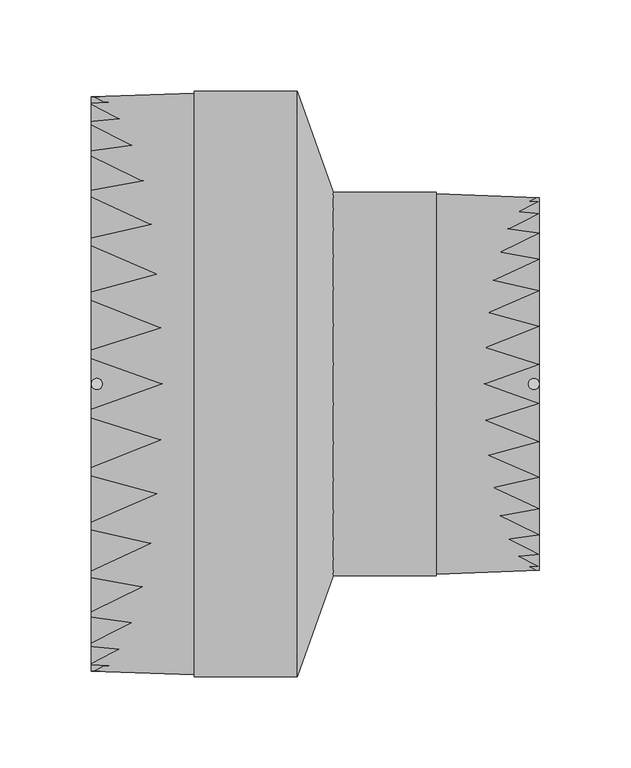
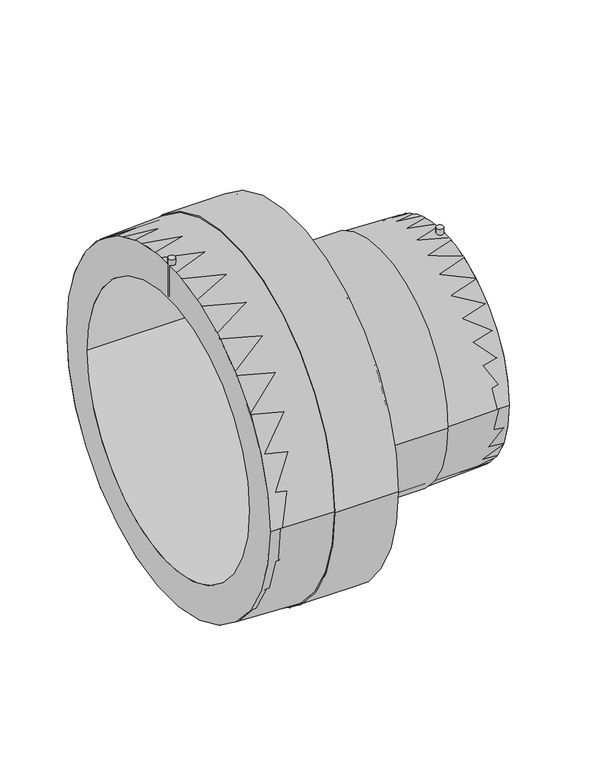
"""IFC4 building model written with IfcOpenShell, lengths in millimetres: pipe fitting geometry, EGB_VASEN_ PPR_Manguito reductor electrosoldable WXRD110 : Manguito reductor electrosoldable WXRD110."""

from ifc_helpers import new_model, si_unit, point, frame, frame_2d, origin, origin_2d, place, context, project, spatial, polyline, circle_curve, trimmed, segment, composite_curve, outline, extrude, source, transform, mapped, element, save
from ifc_brep_helpers import plane_surface, cylinder_surface, revolved_surface, advanced_brep


def pipe_fitting_a3f0e0b7(model_context):
    return source(origin(), model_context, "Body", "SolidModel", [
        extrude(outline(composite_curve([segment(trimmed(circle_curve(frame_2d((119.5, 0.0)), 3.0), [point((116.5, 0.0))], [point((122.5, 0.0))], False, "CARTESIAN"), True, "CONTINUOUS"), segment(trimmed(circle_curve(frame_2d((119.5, 0.0)), 3.0), [point((122.5, 0.0))], [point((116.5, 0.0))], False, "CARTESIAN"), True, "CONTINUOUS")], self_intersect=False)), frame((0.0, 0.0, 82.0), z_axis=(0.0, 0.0, 1.0), x_axis=(1.0, 0.0, 0.0)), (0.0, 0.0, 1.0), 25.0),
        extrude(outline(composite_curve([segment(trimmed(circle_curve(frame_2d((-119.5, 0.0)), 3.0), [point((-122.5, 0.0))], [point((-116.5, 0.0))], False, "CARTESIAN"), True, "CONTINUOUS"), segment(trimmed(circle_curve(frame_2d((-119.5, 0.0)), 3.0), [point((-116.5, 0.0))], [point((-122.5, 0.0))], False, "CARTESIAN"), True, "CONTINUOUS")], self_intersect=False)), frame((0.0, 0.0, 127.0), z_axis=(0.0, 0.0, 1.0), x_axis=(1.0, 0.0, 0.0)), (0.0, 0.0, 1.0), 35.0),
        extrude(outline(composite_curve([segment(trimmed(circle_curve(origin_2d(), 102.0), [point((-102.0, 0.0))], [point((102.0, 0.0))], False, "CARTESIAN"), True, "CONTINUOUS"), segment(trimmed(circle_curve(origin_2d(), 102.0), [point((102.0, 0.0))], [point((-102.0, 0.0))], False, "CARTESIAN"), True, "CONTINUOUS")], self_intersect=False), holes=[composite_curve([segment(trimmed(circle_curve(origin_2d(), 80.0), [point((-80.0, 0.0))], [point((80.0, 0.0))], True, "CARTESIAN"), True, "CONTINUOUS"), segment(trimmed(circle_curve(origin_2d(), 80.0), [point((80.0, 0.0))], [point((-80.0, 0.0))], True, "CARTESIAN"), True, "CONTINUOUS")], self_intersect=False)]), frame((9.8, 0.0, 0.0), z_axis=(1.0, 0.0, 0.0), x_axis=(0.0, 1.0, 0.0)), (0.0, 0.0, 1.0), 112.7),
        extrude(outline(composite_curve([segment(trimmed(circle_curve(origin_2d(), 157.0), [point((-157.0, 0.0))], [point((157.0, 0.0))], False, "CARTESIAN"), True, "CONTINUOUS"), segment(trimmed(circle_curve(origin_2d(), 157.0), [point((157.0, 0.0))], [point((-157.0, 0.0))], False, "CARTESIAN"), True, "CONTINUOUS")], self_intersect=False), holes=[composite_curve([segment(trimmed(circle_curve(origin_2d(), 125.0), [point((-125.0, 0.0))], [point((125.0, 0.0))], True, "CARTESIAN"), True, "CONTINUOUS"), segment(trimmed(circle_curve(origin_2d(), 125.0), [point((125.0, 0.0))], [point((-125.0, 0.0))], True, "CARTESIAN"), True, "CONTINUOUS")], self_intersect=False)]), frame((-122.5, 0.0, 0.0), z_axis=(1.0, 0.0, 0.0), x_axis=(0.0, 1.0, 0.0)), (0.0, 0.0, 1.0), 112.7),
        advanced_brep(
        [(9.8, -102.0, 0.0), (9.8, 102.0, 0.0), (-9.8, -157.0, 0.0), (-9.8, 157.0, 0.0)],
        [
            (0, 1, circle_curve(frame((9.8, 0.0, 0.0), z_axis=(1.0, 0.0, 0.0), x_axis=(0.0, -1.0, 0.0)), 102.0)),
            (1, 0, circle_curve(frame((9.8, 0.0, 0.0), z_axis=(1.0, 0.0, 0.0), x_axis=(0.0, 1.0, 0.0)), 102.0)),
            (2, 3, circle_curve(frame((-9.8, 0.0, 0.0), z_axis=(-1.0, 0.0, 0.0), x_axis=(0.0, 1.0, 0.0)), 157.0)),
            (3, 2, circle_curve(frame((-9.8, 0.0, 0.0), z_axis=(-1.0, 0.0, 0.0), x_axis=(0.0, -1.0, 0.0)), 157.0)),
            (3, 1),
            (0, 2),
        ],
        [
            plane_surface(frame((9.8, 0.0, 0.0), z_axis=(1.0, 0.0, 0.0), x_axis=(0.0, 0.0, -1.0))),
            plane_surface(frame((-9.8, 0.0, 0.0), z_axis=(-1.0, 0.0, 0.0), x_axis=(0.0, 0.0, -1.0))),
            revolved_surface(polyline([(9.800000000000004, -101.99999999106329, 0.0), (-9.800000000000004, -157.0, 0.0)]), (46.1490909, 0.0, 0.0), (-1.0, 0.0, 0.0)),
            revolved_surface(polyline([(9.800000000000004, 101.99999999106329, 0.0), (-9.800000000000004, 157.0, 0.0)]), (46.1490909, 0.0, 0.0), (-1.0, 0.0, 0.0)),
        ],
        [
            (0, [[1, 2]]),
            (1, [[3, 4]]),
            (2, [[-4, 5, -1, 6]]),
            (3, [[-3, -6, -2, -5]]),
        ],
    ),
        advanced_brep(
        [(9.8, -102.0, 0.0), (9.8, 102.0, 0.0), (-9.8, 157.0, 0.0), (-9.8, -157.0, 0.0), (122.5, -102.0, 0.0), (122.5, 102.0, 0.0), (66.15, -104.0, 0.0), (66.15, 104.0, 0.0), (66.15, -105.0, 0.0), (66.15, 105.0, 0.0), (9.8, -105.0, 0.0), (9.8, 105.0, 0.0), (-9.8, -160.0, 0.0), (-9.8, 160.0, 0.0), (-66.15, -160.0, 0.0), (-66.15, 160.0, 0.0), (-66.15, -159.0, 0.0), (-66.15, 159.0, 0.0), (-122.5, -157.0, 0.0), (-122.5, 157.0, 0.0)],
        [
            (0, 1, circle_curve(frame((9.8, 0.0, 0.0), z_axis=(1.0, 0.0, 0.0), x_axis=(0.0, 1.0, 0.0)), 102.0)),
            (1, 2),
            (2, 3, circle_curve(frame((-9.8, 0.0, 0.0), z_axis=(-1.0, 0.0, 0.0), x_axis=(0.0, 1.0, 0.0)), 157.0)),
            (3, 0),
            (1, 0, circle_curve(frame((9.8, 0.0, 0.0), z_axis=(1.0, 0.0, 0.0), x_axis=(0.0, 1.0, 0.0)), 102.0)),
            (3, 2, circle_curve(frame((-9.8, 0.0, 0.0), z_axis=(-1.0, 0.0, 0.0), x_axis=(0.0, 1.0, 0.0)), 157.0)),
            (4, 5, circle_curve(frame((122.5, 0.0, 0.0), z_axis=(1.0, 0.0, 0.0), x_axis=(0.0, 1.0, 0.0)), 102.0)),
            (5, 1),
            (0, 4),
            (5, 4, circle_curve(frame((122.5, 0.0, 0.0), z_axis=(1.0, 0.0, 0.0), x_axis=(0.0, 1.0, 0.0)), 102.0)),
            (6, 7, circle_curve(frame((66.15, 0.0, 0.0), z_axis=(1.0, 0.0, 0.0), x_axis=(0.0, 1.0, 0.0)), 104.0)),
            (7, 5),
            (4, 6),
            (7, 6, circle_curve(frame((66.15, 0.0, 0.0), z_axis=(1.0, 0.0, 0.0), x_axis=(0.0, 1.0, 0.0)), 104.0)),
            (8, 9, circle_curve(frame((66.15, 0.0, 0.0), z_axis=(1.0, 0.0, 0.0), x_axis=(0.0, 1.0, 0.0)), 105.0)),
            (9, 7),
            (6, 8),
            (9, 8, circle_curve(frame((66.15, 0.0, 0.0), z_axis=(1.0, 0.0, 0.0), x_axis=(0.0, 1.0, 0.0)), 105.0)),
            (10, 11, circle_curve(frame((9.8, 0.0, 0.0), z_axis=(1.0, 0.0, 0.0), x_axis=(0.0, 1.0, 0.0)), 105.0)),
            (11, 9),
            (8, 10),
            (11, 10, circle_curve(frame((9.8, 0.0, 0.0), z_axis=(1.0, 0.0, 0.0), x_axis=(0.0, 1.0, 0.0)), 105.0)),
            (12, 13, circle_curve(frame((-9.8, 0.0, 0.0), z_axis=(1.0, 0.0, 0.0), x_axis=(0.0, 1.0, 0.0)), 160.0)),
            (13, 11),
            (10, 12),
            (13, 12, circle_curve(frame((-9.8, 0.0, 0.0), z_axis=(1.0, 0.0, 0.0), x_axis=(0.0, 1.0, 0.0)), 160.0)),
            (14, 15, circle_curve(frame((-66.15, 0.0, 0.0), z_axis=(1.0, 0.0, 0.0), x_axis=(0.0, 1.0, 0.0)), 160.0)),
            (15, 13),
            (12, 14),
            (15, 14, circle_curve(frame((-66.15, 0.0, 0.0), z_axis=(1.0, 0.0, 0.0), x_axis=(0.0, 1.0, 0.0)), 160.0)),
            (16, 17, circle_curve(frame((-66.15, 0.0, 0.0), z_axis=(1.0, 0.0, 0.0), x_axis=(0.0, 1.0, 0.0)), 159.0)),
            (17, 15),
            (14, 16),
            (17, 16, circle_curve(frame((-66.15, 0.0, 0.0), z_axis=(1.0, 0.0, 0.0), x_axis=(0.0, 1.0, 0.0)), 159.0)),
            (18, 19, circle_curve(frame((-122.5, 0.0, 0.0), z_axis=(1.0, 0.0, 0.0), x_axis=(0.0, 1.0, 0.0)), 157.0)),
            (19, 17),
            (16, 18),
            (19, 18, circle_curve(frame((-122.5, 0.0, 0.0), z_axis=(1.0, 0.0, 0.0), x_axis=(0.0, 1.0, 0.0)), 157.0)),
            (2, 19),
            (18, 3),
        ],
        [
            revolved_surface(polyline([(-9.8, 157.0, 0.0), (9.8, 102.0, 0.0)]), (-157.5, 0.0, 0.0), (-1.0, 0.0, 0.0)),
            revolved_surface(polyline([(9.800000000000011, 102.0, 0.0), (122.5, 102.0, 0.0)]), (-157.5, 0.0, 0.0), (-1.0, 0.0, 0.0)),
            revolved_surface(polyline([(122.5, 102.0, 0.0), (66.15, 104.0, 0.0)]), (-157.5, 0.0, 0.0), (-1.0, 0.0, 0.0)),
            plane_surface(frame((66.15, 0.0, 0.0), z_axis=(1.0, 0.0, 0.0), x_axis=(0.0, 1.0, 0.0))),
            cylinder_surface(frame((-157.5, 0.0, 0.0), z_axis=(-1.0, 0.0, 0.0), x_axis=(0.0, 1.0, 0.0)), 105.0),
            revolved_surface(polyline([(9.8, 105.0, 0.0), (-9.8, 160.0, 0.0)]), (-157.5, 0.0, 0.0), (-1.0, 0.0, 0.0)),
            cylinder_surface(frame((-157.5, 0.0, 0.0), z_axis=(-1.0, 0.0, 0.0), x_axis=(0.0, 1.0, 0.0)), 160.0),
            plane_surface(frame((-66.15, 0.0, 0.0), z_axis=(-1.0, 0.0, 0.0), x_axis=(0.0, 1.0, 0.0))),
            revolved_surface(polyline([(-66.15, 159.0, 0.0), (-122.5, 157.0, 0.0)]), (-157.5, 0.0, 0.0), (-1.0, 0.0, 0.0)),
            revolved_surface(polyline([(-122.5, 157.0, 0.0), (-9.800000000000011, 157.0, 0.0)]), (-157.5, 0.0, 0.0), (-1.0, 0.0, 0.0)),
        ],
        [
            (0, [[1, 2, 3, 4]]),
            (0, [[5, -4, 6, -2]]),
            (1, [[7, 8, -1, 9]]),
            (1, [[10, -9, -5, -8]]),
            (2, [[11, 12, -7, 13]]),
            (2, [[14, -13, -10, -12]]),
            (3, [[15, 16, -11, 17]]),
            (3, [[18, -17, -14, -16]]),
            (4, [[19, 20, -15, 21]]),
            (4, [[22, -21, -18, -20]]),
            (5, [[23, 24, -19, 25]]),
            (5, [[26, -25, -22, -24]]),
            (6, [[27, 28, -23, 29]]),
            (6, [[30, -29, -26, -28]]),
            (7, [[31, 32, -27, 33]]),
            (7, [[34, -33, -30, -32]]),
            (8, [[35, 36, -31, 37]]),
            (8, [[38, -37, -34, -36]]),
            (9, [[-3, 39, -35, 40]]),
            (9, [[-6, -40, -38, -39]]),
        ],
    ),
    ])


if __name__ == "__main__":
    model = new_model("IFC4")
    model_context = context("Model", 3, world=origin())
    ifc_project = project(units=[si_unit("LENGTHUNIT", "METRE", prefix="MILLI")], contexts=[model_context])
    site = spatial("IfcSite", under=ifc_project)
    building = spatial("IfcBuilding", under=site)
    placement = place(None, origin())
    pipe_fitting_shape = pipe_fitting_a3f0e0b7(model_context)
    element("IfcPipeFitting", 1, ObjectType="EGB_VASEN_ PPR_Manguito reductor electrosoldable WXRD110 : Manguito reductor electrosoldable WXRD110", at=placement, inside=building, context=model_context, shape_type="MappedRepresentation", body=[
        mapped(pipe_fitting_shape, transform((0.0, 0.0, 0.0), x_axis=(1.0, 0.0, 0.0), y_axis=(0.0, 1.0, 0.0), z_axis=(0.0, 0.0, 1.0))),
    ])
    save(model, "model.ifc")
